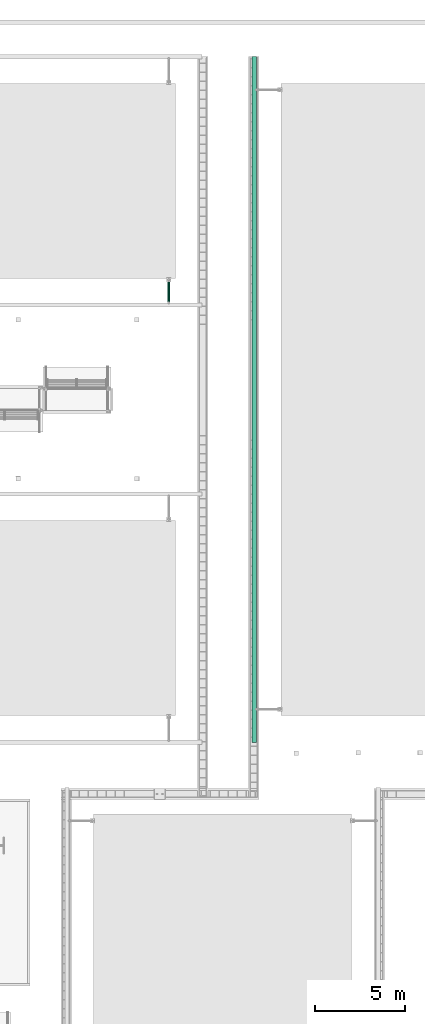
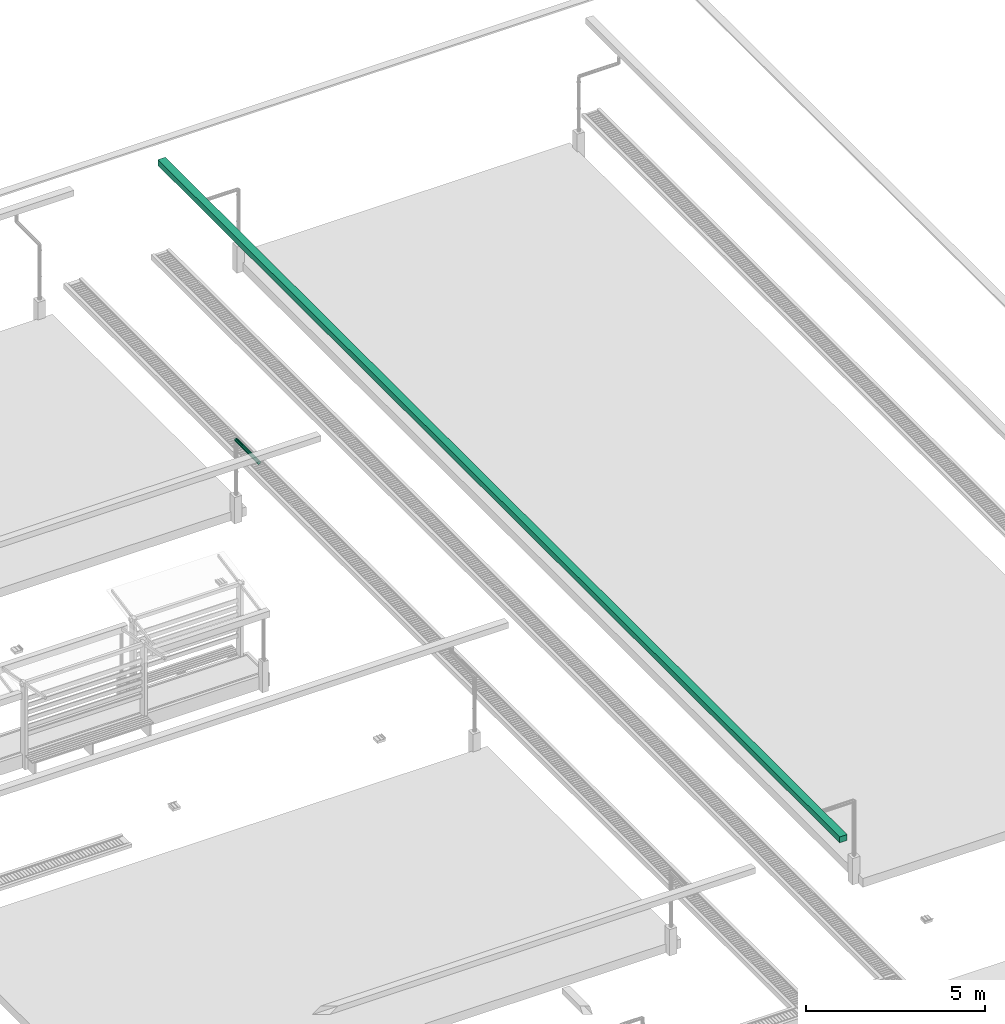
# One storey, part 43 of 90: 2 flow segments.
"""IFC2X3 building model written with IfcOpenShell, lengths in metres."""

from ifc_helpers import new_model, si_unit, origin, origin_with_axes, place, context, subcontext, project, spatial, faceted_brep, element, save


model = new_model("IFC2X3")

# Units and contexts
model_context = context("Model", 3, precision=1e-05, world=origin_with_axes())
body_context = subcontext(model_context, "Body", "Model", "MODEL_VIEW")
ifc_project = project(units=[si_unit("LENGTHUNIT", "METRE"), si_unit("AREAUNIT", "SQUARE_METRE"), si_unit("VOLUMEUNIT", "CUBIC_METRE"), si_unit("PLANEANGLEUNIT", "RADIAN")], contexts=[model_context])

# Site, building, storey
site_placement = place(None, origin_with_axes())
site = spatial("IfcSite", under=ifc_project, at=site_placement, Name="Predio Los Mangos - Morales, San Martín", CompositionType="ELEMENT")
building_placement = place(site_placement, origin())
building = spatial("IfcBuilding", under=site, at=building_placement, Name="Hogar de Refugio Temporal", CompositionType="ELEMENT")
storey_placement = place(building_placement, origin())
storey = spatial("IfcBuildingStorey", under=building, at=storey_placement, Name="NIVEL 1 (NPT +0.00)", CompositionType="ELEMENT", Elevation=0.0)

# Flow segments
flow_segment_1_placement = place(storey_placement, origin())
element("IfcFlowSegment", 1, at=flow_segment_1_placement, inside=storey, Name="E-07_canaleta", ObjectType="Canaleta", context=body_context, shape_type="Brep", body=[
    faceted_brep([(54.08, 91.2, 3.13), (54.08, 129.3, 3.13), (54.32, 129.3, 3.13), (54.32, 91.2, 3.13), (54.08, 91.2, 3.33), (54.32, 91.2, 3.33), (54.32, 129.3, 3.33), (54.08, 129.3, 3.33)], [[[0, 1, 2, 3]], [[4, 5, 6, 7]], [[0, 3, 5, 4]], [[3, 2, 6, 5]], [[2, 1, 7, 6]], [[1, 0, 4, 7]]]),
])
flow_segment_2_placement = place(storey_placement, origin())
element("IfcFlowSegment", 2, at=flow_segment_2_placement, inside=storey, Name="montante_desvio", ObjectType="Montante PVC 4\"", context=body_context, shape_type="Brep", body=[
    faceted_brep([(49.45, 115.62, 2.965), (49.45, 116.91, 2.965), (49.4225, 116.91, 2.9576), (49.4225, 115.62, 2.9576), (49.4024, 116.91, 2.9375), (49.4024, 115.62, 2.9375), (49.395, 116.91, 2.91), (49.395, 115.62, 2.91), (49.4024, 116.91, 2.8825), (49.4024, 115.62, 2.8825), (49.4225, 116.91, 2.8624), (49.4225, 115.62, 2.8624), (49.45, 116.91, 2.855), (49.45, 115.62, 2.855), (49.4775, 116.91, 2.8624), (49.4775, 115.62, 2.8624), (49.4976, 116.91, 2.8825), (49.4976, 115.62, 2.8825), (49.505, 116.91, 2.91), (49.505, 115.62, 2.91), (49.4976, 116.91, 2.9375), (49.4976, 115.62, 2.9375), (49.4775, 116.91, 2.9576), (49.4775, 115.62, 2.9576)], [[[0, 1, 2, 3]], [[3, 2, 4, 5]], [[5, 4, 6, 7]], [[7, 6, 8, 9]], [[9, 8, 10, 11]], [[11, 10, 12, 13]], [[13, 12, 14, 15]], [[15, 14, 16, 17]], [[17, 16, 18, 19]], [[19, 18, 20, 21]], [[2, 1, 22, 20, 18, 16, 14, 12, 10, 8, 6, 4]], [[21, 20, 22, 23]], [[23, 22, 1, 0]], [[0, 3, 5, 7, 9, 11, 13, 15, 17, 19, 21, 23]]]),
])

save(model, "model.ifc")
